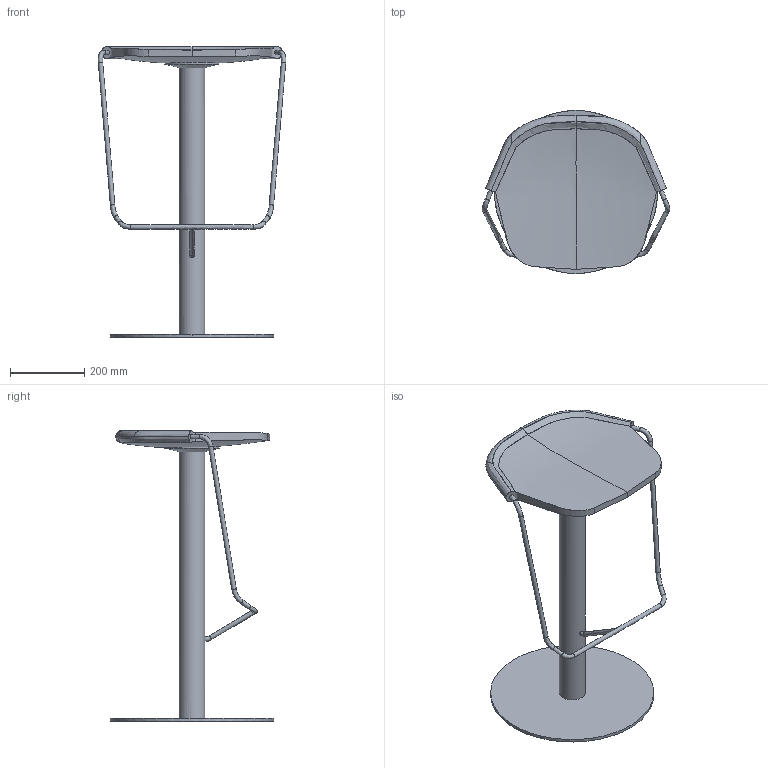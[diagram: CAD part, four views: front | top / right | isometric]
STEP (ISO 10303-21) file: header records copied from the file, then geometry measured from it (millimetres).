
FILE_DESCRIPTION(/* description */ (''),/* implementation_level */ '2;1');
FILE_NAME(/* name */ 'MC09_U~1',/* time_stamp */ '2021-04-10T10:53:30+02:00',/* author */ (''),/* organization */ (''),/* preprocessor_version */ 'ST-DEVELOPER v16.5',/* originating_system */ '',/* authorisation */ '');
FILE_SCHEMA (('AUTOMOTIVE_DESIGN'));
Length unit declared in the file: millimetre
Products named in the file (1): Document
Bounding box: 506.05 x 440 x 784.6 mm (x, y, z)
Volume: 1218888.3 mm3; surface area: 885005.9 mm2
Topology: 1 solids, 46 shells, 50 faces, 197 edges, 179 vertices
Faces by surface type: bspline 50
Entity records: 37310 total; most frequent: CARTESIAN_POINT 35395, B_SPLINE_CURVE_WITH_KNOTS 338, ORIENTED_EDGE 221, PCURVE 221, DEFINITIONAL_REPRESENTATION 221, SURFACE_CURVE 197, EDGE_CURVE 197, VERTEX_POINT 179
